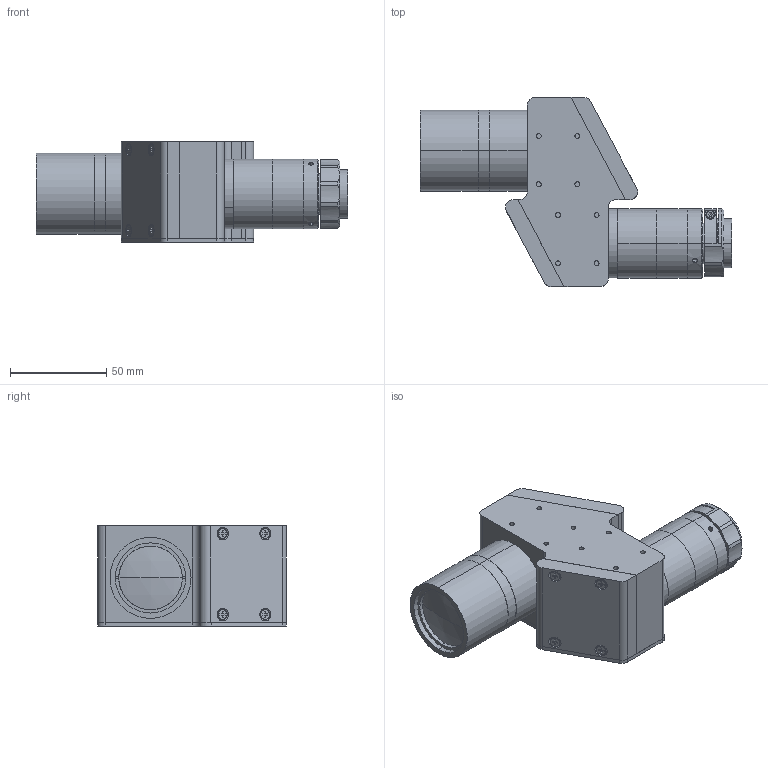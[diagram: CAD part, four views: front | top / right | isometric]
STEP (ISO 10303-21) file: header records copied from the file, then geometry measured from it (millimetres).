
FILE_DESCRIPTION (( 'STEP AP203' ), '1' );
FILE_NAME ('XF-MH07X275.STEP', '2020-08-24T07:15:28', ( 'canrill-02' ), ( '' ), 'SwSTEP 2.0', 'SolidWorks 2014', '' );
FILE_SCHEMA (( 'CONFIG_CONTROL_DESIGN' ));
Length unit declared in the file: millimetre
Products named in the file (1): XF-MH07X275
Bounding box: 161.38 x 98 x 52 mm (x, y, z)
Surface area: 50621.9 mm2 (no closed solid volume)
Topology: 0 solids, 32 shells, 410 faces, 1327 edges, 913 vertices
Faces by surface type: plane 210, cylinder 155, cone 41, sphere 2, torus 2
Entity records: 14919 total; most frequent: CARTESIAN_POINT 2970, DIRECTION 2594, ORIENTED_EDGE 2183, EDGE_CURVE 1325, VERTEX_POINT 913, AXIS2_PLACEMENT_3D 881, VECTOR 832, LINE 832
